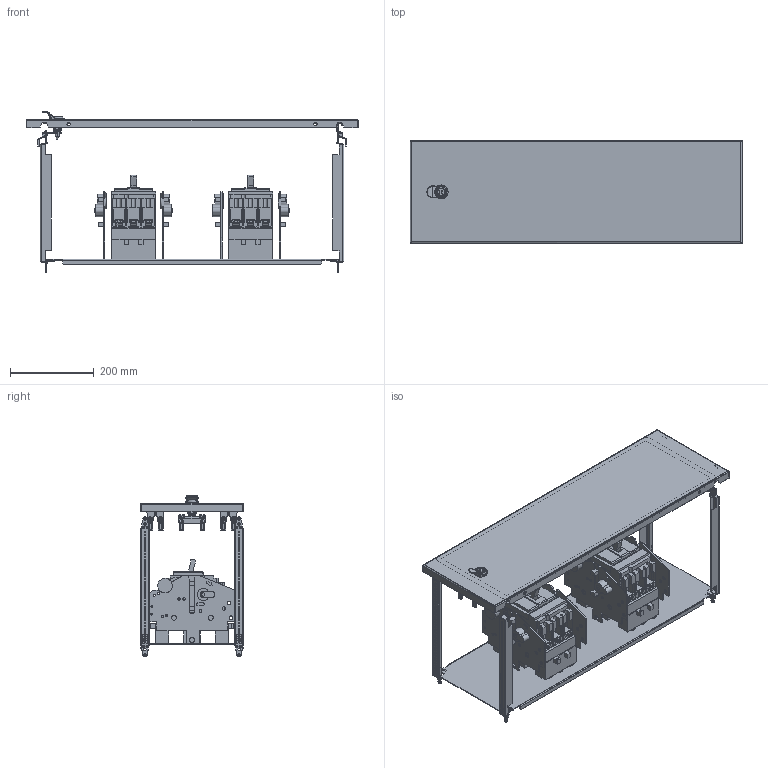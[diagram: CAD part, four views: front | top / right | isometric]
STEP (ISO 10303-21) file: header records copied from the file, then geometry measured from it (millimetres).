
FILE_DESCRIPTION(('CAx-IF Rec.Pracs.---Model Styling and Organization---1.2---2011-12-15','CAx-IF Rec.Pracs.---Geometric and Assembly Validation Properties---4.1---2014-06-16','CAx-IF Rec.Pracs.---PMI Polyline Presentation---2.0---2013-05-24'),'2;1');
FILE_NAME('R5PKEB7V81913 (W).stp','2021-07-29T02:53:15+03:00',(''),(''),'STEP Interface 4.4 by CT CoreTechnologie','3D_Evolution4.4 by CT CoreTechnologie','');
FILE_SCHEMA(('AUTOMOTIVE_DESIGN { 1 0 10303 214 1 1 1 1 }'));
Length unit declared in the file: millimetre
Products named in the file (1): R5PKEB7V81913 (W)
Bounding box: 794 x 245 x 386.89 mm (x, y, z)
Surface area: 1810507.8 mm2 (no closed solid volume)
Topology: 0 solids, 104 shells, 4162 faces, 11716 edges, 7754 vertices
Faces by surface type: plane 2464, cylinder 1318, bspline 380
Entity records: 144637 total; most frequent: CARTESIAN_POINT 35099, ORIENTED_EDGE 23330, DIRECTION 21970, EDGE_CURVE 11673, VECTOR 8392, LINE 8392, VERTEX_POINT 7790, AXIS2_PLACEMENT_3D 6789
